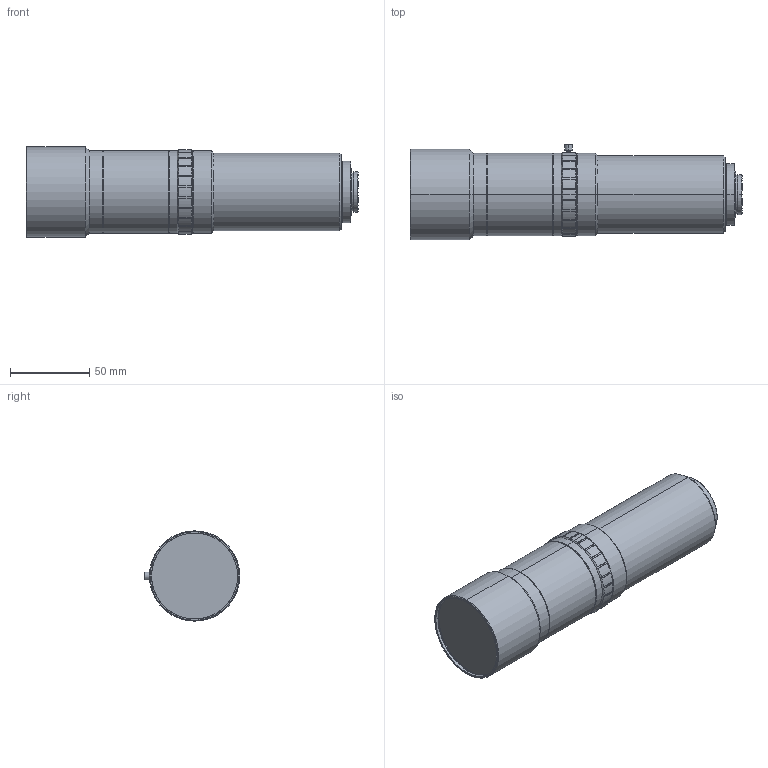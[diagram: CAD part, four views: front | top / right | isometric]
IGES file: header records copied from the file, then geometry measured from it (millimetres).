
Start section: SolidWorks IGES file using analytic representation for surfaces
Global section: file name: \\192.168.200.11\Development\02 テレセントリックレンズ\03 VS-TCM series\007 VS-TCM07-150_S\作成中_3D\VS-TCM07-150_S.IGS,15HSolidWorks; native system: 2014; preprocessor: SolidWorks 2014; author: miura_vst; date: 141028.102126; units: millimetre
Bounding box: 209.48 x 60.25 x 57 mm (x, y, z)
Surface area: 40596.5 mm2 (no closed solid volume)
Topology: 0 solids, 0 shells, 184 faces, 2636 edges, 2636 vertices
Faces by surface type: revolution 95, bspline 89
